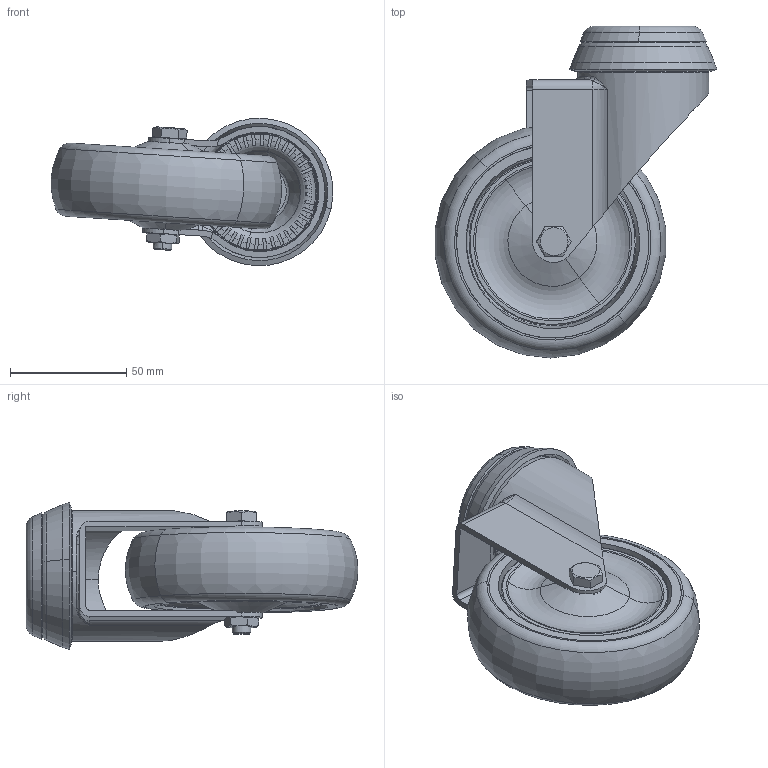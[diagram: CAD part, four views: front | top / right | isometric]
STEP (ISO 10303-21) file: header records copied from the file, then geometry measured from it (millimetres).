
FILE_DESCRIPTION (( 'STEP AP203' ), '1' );
FILE_NAME ('300962_STEP.STEP', '2012-02-27T12:50:27', ( '' ), ( '' ), 'SwSTEP 2.0', 'SolidWorks 2011', '' );
FILE_SCHEMA (( 'CONFIG_CONTROL_DESIGN' ));
Length unit declared in the file: millimetre
Products named in the file (1): 300962_STEP
Bounding box: 121.13 x 142.68 x 63.32 mm (x, y, z)
Surface area: 86524.2 mm2 (no closed solid volume)
Topology: 0 solids, 14 shells, 264 faces, 870 edges, 584 vertices
Faces by surface type: plane 135, cone 52, torus 37, cylinder 32, bspline 8
Entity records: 11227 total; most frequent: CARTESIAN_POINT 3762, DIRECTION 1564, ORIENTED_EDGE 1455, EDGE_CURVE 867, AXIS2_PLACEMENT_3D 614, VERTEX_POINT 584, CIRCLE 357, VECTOR 336
